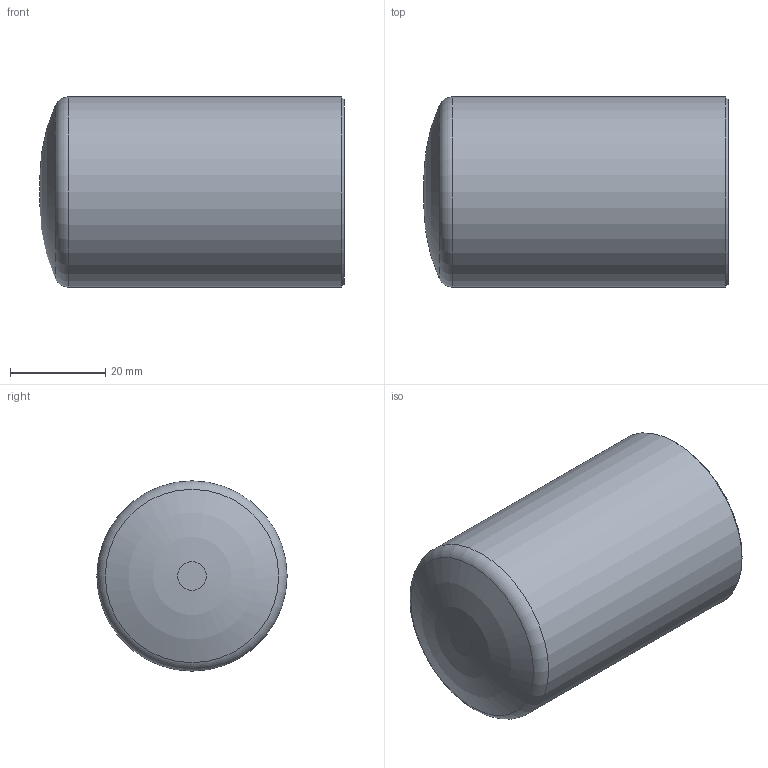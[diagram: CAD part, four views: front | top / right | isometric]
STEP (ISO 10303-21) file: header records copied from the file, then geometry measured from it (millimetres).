
FILE_DESCRIPTION(/* description */ ('Unknown'),/* implementation_level */ '2;1');
FILE_NAME(/* name */ 'CAP040C',/* time_stamp */ '2021-02-04T09:05:25+01:00',/* author */ ('Unknown'),/* organization */ ('Unknown'),/* preprocessor_version */ 'ST-DEVELOPER v16.7',/* originating_system */ 'Solid Edge',/* authorisation */ 'Unknown');
FILE_SCHEMA (('AUTOMOTIVE_DESIGN {1 0 10303 214 3 1 1}'));
Length unit declared in the file: millimetre
Products named in the file (1): CAP040C
Bounding box: 64 x 40 x 40 mm (x, y, z)
Volume: 31604.4 mm3; surface area: 15553.1 mm2
Topology: 1 solids, 1 shells, 10 faces, 17 edges, 10 vertices
Faces by surface type: torus 4, plane 3, cylinder 2, cone 1
Full cylindrical faces by diameter (mm): 32.6 x1, 40 x1
Entity records: 224 total; most frequent: DIRECTION 40, CARTESIAN_POINT 29, AXIS2_PLACEMENT_3D 20, ORIENTED_EDGE 18, EDGE_LOOP 18, FACE_BOUND 18, ADVANCED_FACE 10, EDGE_CURVE 9
